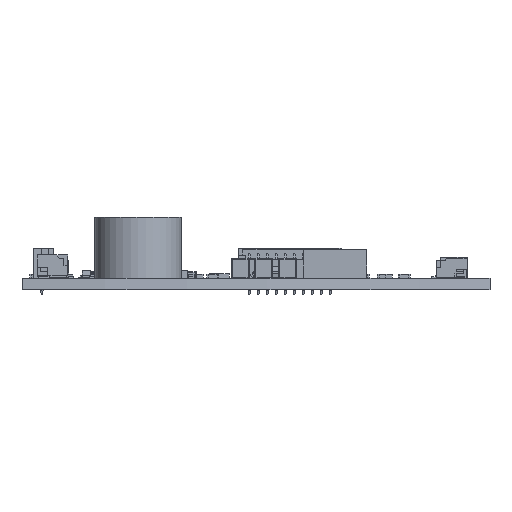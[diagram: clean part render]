
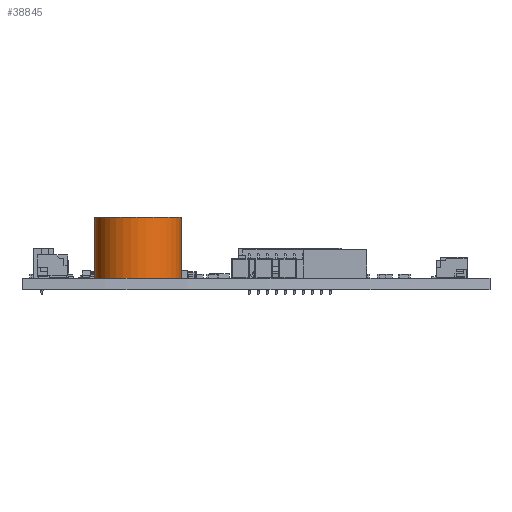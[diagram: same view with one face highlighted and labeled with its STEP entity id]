
A CAD part, left-side view. The second image highlights one B-rep face of the part: STEP entity #38845.
In plain terms, the highlighted cylindrical face has radius 6 mm (diameter 12 mm), a full revolution.
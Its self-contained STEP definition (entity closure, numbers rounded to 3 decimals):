
#38845 = ADVANCED_FACE('',(#38846),#38873,.T.);
#38846 = FACE_BOUND('',#38847,.T.);
#38847 = EDGE_LOOP('',(#38848,#38857,#38865,#38872));
#38848 = ORIENTED_EDGE('',*,*,#38849,.T.);
#38849 = EDGE_CURVE('',#38850,#38850,#38852,.T.);
#38850 = VERTEX_POINT('',#38851);
#38851 = CARTESIAN_POINT('',(6.,0.,0.));
#38852 = CIRCLE('',#38853,6.);
#38853 = AXIS2_PLACEMENT_3D('',#38854,#38855,#38856);
#38854 = CARTESIAN_POINT('',(0.,0.,0.));
#38855 = DIRECTION('',(0.,0.,1.));
#38856 = DIRECTION('',(1.,0.,-0.));
#38857 = ORIENTED_EDGE('',*,*,#38858,.T.);
#38858 = EDGE_CURVE('',#38850,#38859,#38861,.T.);
#38859 = VERTEX_POINT('',#38860);
#38860 = CARTESIAN_POINT('',(6.,0.,8.5));
#38861 = LINE('',#38862,#38863);
#38862 = CARTESIAN_POINT('',(6.,0.,0.));
#38863 = VECTOR('',#38864,1.);
#38864 = DIRECTION('',(0.,0.,1.));
#38865 = ORIENTED_EDGE('',*,*,#38866,.F.);
#38866 = EDGE_CURVE('',#38859,#38859,#38867,.T.);
#38867 = CIRCLE('',#38868,6.);
#38868 = AXIS2_PLACEMENT_3D('',#38869,#38870,#38871);
#38869 = CARTESIAN_POINT('',(0.,0.,8.5));
#38870 = DIRECTION('',(0.,0.,1.));
#38871 = DIRECTION('',(1.,0.,-0.));
#38872 = ORIENTED_EDGE('',*,*,#38858,.F.);
#38873 = CYLINDRICAL_SURFACE('',#38874,6.);
#38874 = AXIS2_PLACEMENT_3D('',#38875,#38876,#38877);
#38875 = CARTESIAN_POINT('',(0.,0.,0.));
#38876 = DIRECTION('',(-0.,-0.,-1.));
#38877 = DIRECTION('',(1.,0.,-0.));
